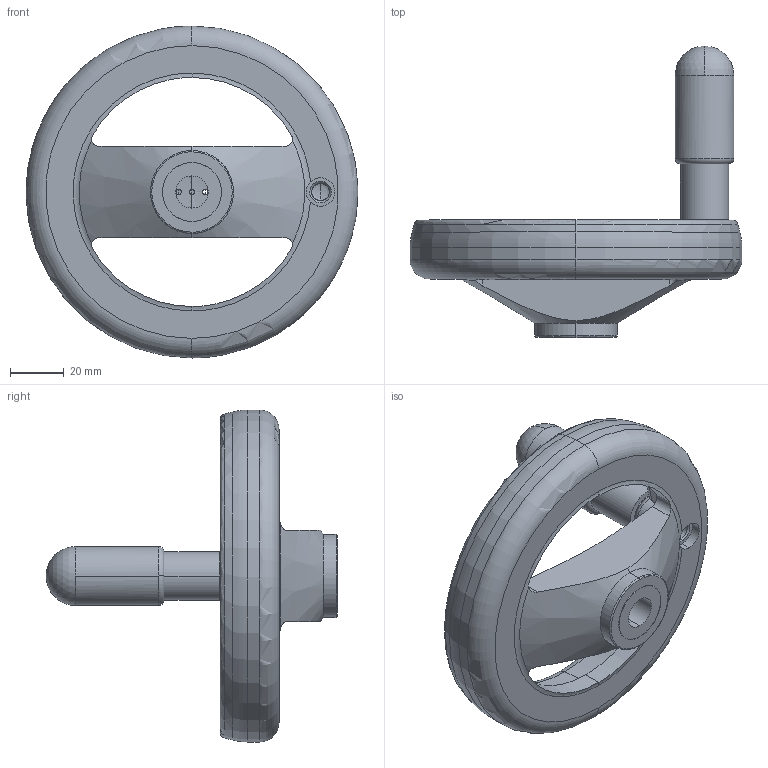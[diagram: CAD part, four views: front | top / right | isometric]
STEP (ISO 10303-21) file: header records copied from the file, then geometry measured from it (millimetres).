
FILE_DESCRIPTION (( 'STEP AP214' ), '1' );
FILE_NAME ('2.9019 Käsipyörä D125.STEP', '2024-11-12T13:47:44', ( '' ), ( '' ), 'SwSTEP 2.0', 'SolidWorks 2024', '' );
FILE_SCHEMA (( 'AUTOMOTIVE_DESIGN' ));
Length unit declared in the file: millimetre
Products named in the file (1): 2.9019 Käsipyörä D125
Bounding box: 124 x 109 x 124 mm (x, y, z)
Surface area: 38473.6 mm2 (no closed solid volume)
Topology: 0 solids, 3 shells, 95 faces, 251 edges, 150 vertices
Faces by surface type: cylinder 35, torus 33, cone 14, plane 11, sphere 2
Entity records: 6389 total; most frequent: CARTESIAN_POINT 3550, ORIENTED_EDGE 460, EDGE_CURVE 237, B_SPLINE_CURVE_WITH_KNOTS 237, DIRECTION 192, VERTEX_POINT 150, EDGE_LOOP 107, UNCERTAINTY_MEASURE_WITH_UNIT 96
